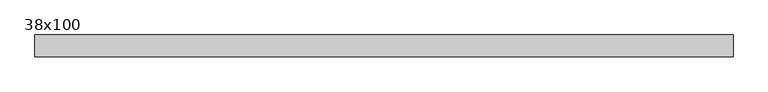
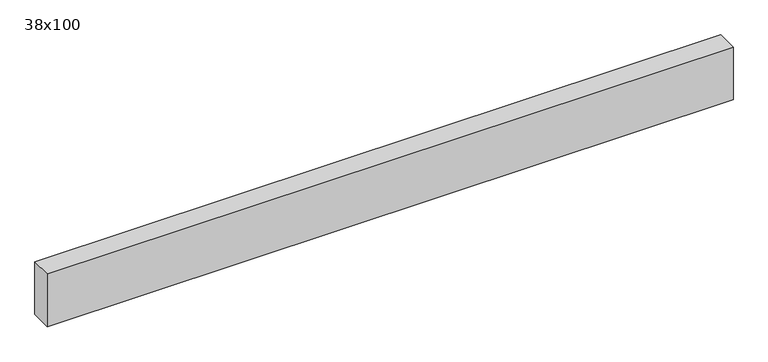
"""IFC4 building model written with IfcOpenShell, lengths in millimetres: beam geometry, Poutre - Bois de construction de dimensions courantes : 38x100."""

from ifc_helpers import new_model, si_unit, frame, origin, place, context, project, spatial, polyline, outline, extrude, source, transform, mapped, element, save


def beam_38x100_f37e2f92(model_context):
    return source(origin(), model_context, "Body", "SweptSolid", [
        extrude(outline(polyline([(613.5, 19.05), (613.5, -19.05), (-613.5, -19.05), (-613.5, 19.05), (613.5, 19.05)])), frame((0.0, 0.0, -50.0), z_axis=(0.0, 0.0, 1.0), x_axis=(1.0, 0.0, 0.0)), (0.0, 0.0, 1.0), 100.0),
    ])


if __name__ == "__main__":
    model = new_model("IFC4")
    model_context = context("Model", 3, world=origin())
    ifc_project = project(units=[si_unit("LENGTHUNIT", "METRE", prefix="MILLI")], contexts=[model_context])
    site = spatial("IfcSite", under=ifc_project)
    building = spatial("IfcBuilding", under=site)
    placement = place(None, origin())
    beam_38x100_shape = beam_38x100_f37e2f92(model_context)
    element("IfcBeam", 1, ObjectType="Poutre - Bois de construction de dimensions courantes : 38x100", at=placement, inside=building, context=model_context, shape_type="MappedRepresentation", body=[
        mapped(beam_38x100_shape, transform((0.0, 0.0, 0.0), x_axis=(1.0, 0.0, 0.0), y_axis=(0.0, 1.0, 0.0), z_axis=(0.0, 0.0, 1.0))),
    ])
    save(model, "model.ifc")
